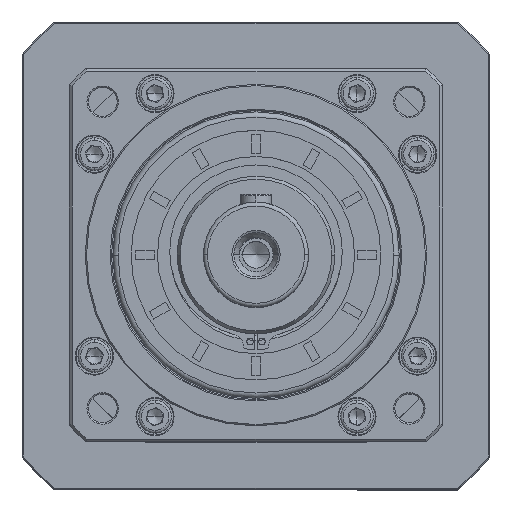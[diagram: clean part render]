
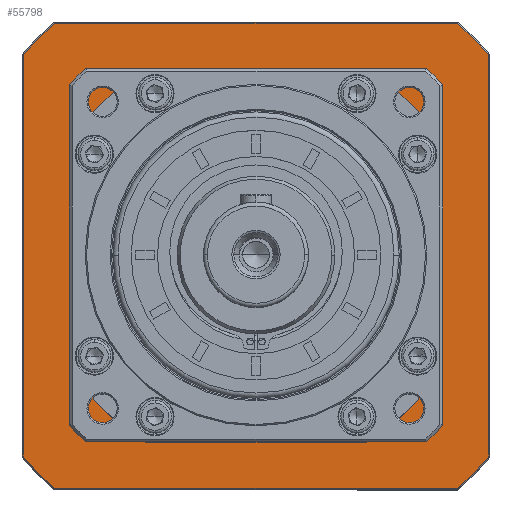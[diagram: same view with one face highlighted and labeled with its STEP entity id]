
A CAD part, top view. The second image highlights one B-rep face of the part: STEP entity #55798.
In plain terms, the highlighted planar face has unit normal (0, 0, 1).
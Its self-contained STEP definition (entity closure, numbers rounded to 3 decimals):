
#51 = AXIS2_PLACEMENT_3D ( 'NONE', #122306, #22969, #81477 ) ;
#372 = AXIS2_PLACEMENT_3D ( 'NONE', #35949, #66265, #8267 ) ;
#611 = DIRECTION ( 'NONE',  ( 0., 0., -1. ) ) ;
#6707 = CARTESIAN_POINT ( 'NONE',  ( 97.907, -83.248, 165.15 ) ) ;
#7340 = CARTESIAN_POINT ( 'NONE',  ( 115.907, -117.9, 165.15 ) ) ;
#8267 = DIRECTION ( 'NONE',  ( -1., 0., 0. ) ) ;
#8697 = CARTESIAN_POINT ( 'NONE',  ( 274.907, -159.778, 165.15 ) ) ;
#9414 = DIRECTION ( 'NONE',  ( 0., 0., -1. ) ) ;
#9546 = AXIS2_PLACEMENT_3D ( 'NONE', #118921, #59245, #11061 ) ;
#11061 = DIRECTION ( 'NONE',  ( -1., 0., 0. ) ) ;
#11111 = ORIENTED_EDGE ( 'NONE', *, *, #18601, .T. ) ;
#13739 = VERTEX_POINT ( 'NONE', #57113 ) ;
#14385 = CARTESIAN_POINT ( 'NONE',  ( 144.392, -230.278, 165.15 ) ) ;
#14524 = CARTESIAN_POINT ( 'NONE',  ( 228.285, -230.278, 165.15 ) ) ;
#16271 = LINE ( 'NONE', #8697, #110803 ) ;
#16526 = CARTESIAN_POINT ( 'NONE',  ( 97.907, -159.778, 165.15 ) ) ;
#16529 = CARTESIAN_POINT ( 'NONE',  ( 274.907, -83.248, 165.15 ) ) ;
#17891 = ORIENTED_EDGE ( 'NONE', *, *, #33307, .T. ) ;
#18601 = EDGE_CURVE ( 'NONE', #27472, #96458, #91816, .T. ) ;
#19206 = DIRECTION ( 'NONE',  ( 0., 0., 1. ) ) ;
#20451 = VECTOR ( 'NONE', #36936, 1000. ) ;
#21658 = EDGE_CURVE ( 'NONE', #112071, #13739, #113470, .T. ) ;
#22969 = DIRECTION ( 'NONE',  ( 0., 0., 1. ) ) ;
#23579 = CIRCLE ( 'NONE', #372, 117. ) ;
#24359 = ORIENTED_EDGE ( 'NONE', *, *, #120608, .T. ) ;
#25660 = CARTESIAN_POINT ( 'NONE',  ( 115.907, -201.656, 165.15 ) ) ;
#26311 = DIRECTION ( 'NONE',  ( 0., 0., -1. ) ) ;
#27073 = AXIS2_PLACEMENT_3D ( 'NONE', #106188, #9414, #37108 ) ;
#27472 = VERTEX_POINT ( 'NONE', #35143 ) ;
#27595 = EDGE_CURVE ( 'NONE', #47284, #38018, #87978, .T. ) ;
#28519 = ORIENTED_EDGE ( 'NONE', *, *, #97998, .T. ) ;
#30364 = EDGE_LOOP ( 'NONE', ( #52568, #80943, #75682, #106089, #24359, #72838, #80585, #84494 ) ) ;
#32607 = EDGE_CURVE ( 'NONE', #96458, #112071, #40900, .T. ) ;
#33307 = EDGE_CURVE ( 'NONE', #13739, #71769, #52885, .T. ) ;
#35063 = EDGE_CURVE ( 'NONE', #99577, #106062, #108547, .T. ) ;
#35143 = CARTESIAN_POINT ( 'NONE',  ( 262.937, -71.278, 165.15 ) ) ;
#35949 = CARTESIAN_POINT ( 'NONE',  ( 186.407, -159.778, 165.15 ) ) ;
#36913 = CARTESIAN_POINT ( 'NONE',  ( 109.878, -248.278, 165.15 ) ) ;
#36936 = DIRECTION ( 'NONE',  ( 0., -1., 0. ) ) ;
#36972 = DIRECTION ( 'NONE',  ( 1., 0., 0. ) ) ;
#37108 = DIRECTION ( 'NONE',  ( -1., 0., 0. ) ) ;
#37556 = CARTESIAN_POINT ( 'NONE',  ( 186.407, -159.778, 165.15 ) ) ;
#38018 = VERTEX_POINT ( 'NONE', #7340 ) ;
#38118 = CIRCLE ( 'NONE', #85000, 82. ) ;
#38983 = CARTESIAN_POINT ( 'NONE',  ( 228.422, -89.278, 165.15 ) ) ;
#39212 = CARTESIAN_POINT ( 'NONE',  ( 262.937, -248.278, 165.15 ) ) ;
#40900 = CIRCLE ( 'NONE', #125743, 117. ) ;
#42968 = CARTESIAN_POINT ( 'NONE',  ( 228.285, -89.278, 165.15 ) ) ;
#43185 = LINE ( 'NONE', #82972, #105774 ) ;
#43272 = DIRECTION ( 'NONE',  ( 0., 0., -1. ) ) ;
#44210 = EDGE_CURVE ( 'NONE', #88911, #118801, #82476, .T. ) ;
#44568 = EDGE_CURVE ( 'NONE', #118801, #99577, #85210, .T. ) ;
#45239 = DIRECTION ( 'NONE',  ( 1., 0., 0. ) ) ;
#45575 = ORIENTED_EDGE ( 'NONE', *, *, #32607, .T. ) ;
#47284 = VERTEX_POINT ( 'NONE', #25660 ) ;
#48107 = PLANE ( 'NONE',  #27073 ) ;
#48553 = DIRECTION ( 'NONE',  ( -1., 0., 0. ) ) ;
#49957 = CARTESIAN_POINT ( 'NONE',  ( 186.407, -159.778, 165.15 ) ) ;
#52568 = ORIENTED_EDGE ( 'NONE', *, *, #120475, .T. ) ;
#52696 = CARTESIAN_POINT ( 'NONE',  ( 186.407, -71.278, 165.15 ) ) ;
#52885 = CIRCLE ( 'NONE', #51, 117. ) ;
#53105 = VERTEX_POINT ( 'NONE', #14524 ) ;
#53614 = EDGE_CURVE ( 'NONE', #53105, #91508, #84362, .T. ) ;
#54903 = CARTESIAN_POINT ( 'NONE',  ( 144.53, -89.278, 165.15 ) ) ;
#55798 = ADVANCED_FACE ( 'NONE', ( #102434, #123895 ), #48107, .F. ) ;
#56905 = VECTOR ( 'NONE', #82650, 1000. ) ;
#57113 = CARTESIAN_POINT ( 'NONE',  ( 97.907, -236.307, 165.15 ) ) ;
#57632 = EDGE_CURVE ( 'NONE', #87633, #95796, #16271, .T. ) ;
#58978 = CARTESIAN_POINT ( 'NONE',  ( 109.878, -71.278, 165.15 ) ) ;
#59245 = DIRECTION ( 'NONE',  ( 0., 0., 1. ) ) ;
#60630 = CIRCLE ( 'NONE', #69500, 82. ) ;
#63023 = DIRECTION ( 'NONE',  ( -1., 0., 0. ) ) ;
#66265 = DIRECTION ( 'NONE',  ( 0., 0., 1. ) ) ;
#66615 = ORIENTED_EDGE ( 'NONE', *, *, #57632, .T. ) ;
#69500 = AXIS2_PLACEMENT_3D ( 'NONE', #120968, #43272, #91107 ) ;
#70364 = DIRECTION ( 'NONE',  ( 1., 0., 0. ) ) ;
#71769 = VERTEX_POINT ( 'NONE', #36913 ) ;
#72838 = ORIENTED_EDGE ( 'NONE', *, *, #53614, .T. ) ;
#75682 = ORIENTED_EDGE ( 'NONE', *, *, #44568, .T. ) ;
#76241 = CARTESIAN_POINT ( 'NONE',  ( 274.907, -236.307, 165.15 ) ) ;
#76845 = AXIS2_PLACEMENT_3D ( 'NONE', #96269, #26311, #36972 ) ;
#77819 = CARTESIAN_POINT ( 'NONE',  ( 115.907, -117.763, 165.15 ) ) ;
#80585 = ORIENTED_EDGE ( 'NONE', *, *, #104331, .T. ) ;
#80822 = ORIENTED_EDGE ( 'NONE', *, *, #21658, .T. ) ;
#80943 = ORIENTED_EDGE ( 'NONE', *, *, #44210, .T. ) ;
#81014 = CARTESIAN_POINT ( 'NONE',  ( 144.53, -230.278, 165.15 ) ) ;
#81477 = DIRECTION ( 'NONE',  ( -1., 0., 0. ) ) ;
#82476 = LINE ( 'NONE', #38983, #88560 ) ;
#82650 = DIRECTION ( 'NONE',  ( -1., 0., 0. ) ) ;
#82670 = CARTESIAN_POINT ( 'NONE',  ( 256.907, -201.793, 165.15 ) ) ;
#82690 = VECTOR ( 'NONE', #90775, 1000. ) ;
#82972 = CARTESIAN_POINT ( 'NONE',  ( 186.407, -248.278, 165.15 ) ) ;
#83679 = CARTESIAN_POINT ( 'NONE',  ( 256.907, -201.656, 165.15 ) ) ;
#84362 = LINE ( 'NONE', #14385, #56905 ) ;
#84494 = ORIENTED_EDGE ( 'NONE', *, *, #27595, .T. ) ;
#84645 = ORIENTED_EDGE ( 'NONE', *, *, #87989, .T. ) ;
#85000 = AXIS2_PLACEMENT_3D ( 'NONE', #49957, #611, #107968 ) ;
#85210 = CIRCLE ( 'NONE', #112632, 82. ) ;
#87633 = VERTEX_POINT ( 'NONE', #76241 ) ;
#87978 = LINE ( 'NONE', #77819, #120038 ) ;
#87989 = EDGE_CURVE ( 'NONE', #95796, #27472, #23579, .T. ) ;
#88560 = VECTOR ( 'NONE', #107234, 1000. ) ;
#88608 = CIRCLE ( 'NONE', #9546, 117. ) ;
#88911 = VERTEX_POINT ( 'NONE', #54903 ) ;
#90775 = DIRECTION ( 'NONE',  ( 0., -1., 0. ) ) ;
#91107 = DIRECTION ( 'NONE',  ( 1., 0., 0. ) ) ;
#91508 = VERTEX_POINT ( 'NONE', #81014 ) ;
#91816 = LINE ( 'NONE', #52696, #97926 ) ;
#94252 = VERTEX_POINT ( 'NONE', #39212 ) ;
#95485 = EDGE_CURVE ( 'NONE', #94252, #87633, #88608, .T. ) ;
#95796 = VERTEX_POINT ( 'NONE', #16529 ) ;
#96269 = CARTESIAN_POINT ( 'NONE',  ( 186.407, -159.778, 165.15 ) ) ;
#96458 = VERTEX_POINT ( 'NONE', #58978 ) ;
#97926 = VECTOR ( 'NONE', #63023, 1000. ) ;
#97998 = EDGE_CURVE ( 'NONE', #71769, #94252, #43185, .T. ) ;
#99577 = VERTEX_POINT ( 'NONE', #120018 ) ;
#101277 = ORIENTED_EDGE ( 'NONE', *, *, #95485, .T. ) ;
#102431 = CARTESIAN_POINT ( 'NONE',  ( 186.407, -159.778, 165.15 ) ) ;
#102434 = FACE_OUTER_BOUND ( 'NONE', #123407, .T. ) ;
#104331 = EDGE_CURVE ( 'NONE', #91508, #47284, #38118, .T. ) ;
#104907 = CIRCLE ( 'NONE', #76845, 82. ) ;
#105774 = VECTOR ( 'NONE', #70364, 1000. ) ;
#105910 = DIRECTION ( 'NONE',  ( 0., 1., 0. ) ) ;
#106062 = VERTEX_POINT ( 'NONE', #83679 ) ;
#106089 = ORIENTED_EDGE ( 'NONE', *, *, #35063, .T. ) ;
#106188 = CARTESIAN_POINT ( 'NONE',  ( 186.407, -159.778, 165.15 ) ) ;
#107234 = DIRECTION ( 'NONE',  ( 1., 0., 0. ) ) ;
#107968 = DIRECTION ( 'NONE',  ( 1., 0., 0. ) ) ;
#108547 = LINE ( 'NONE', #82670, #82690 ) ;
#110803 = VECTOR ( 'NONE', #114886, 1000. ) ;
#112071 = VERTEX_POINT ( 'NONE', #6707 ) ;
#112632 = AXIS2_PLACEMENT_3D ( 'NONE', #102431, #121696, #45239 ) ;
#113470 = LINE ( 'NONE', #16526, #20451 ) ;
#114886 = DIRECTION ( 'NONE',  ( 0., 1., 0. ) ) ;
#118801 = VERTEX_POINT ( 'NONE', #42968 ) ;
#118921 = CARTESIAN_POINT ( 'NONE',  ( 186.407, -159.778, 165.15 ) ) ;
#120018 = CARTESIAN_POINT ( 'NONE',  ( 256.907, -117.9, 165.15 ) ) ;
#120038 = VECTOR ( 'NONE', #105910, 1000. ) ;
#120475 = EDGE_CURVE ( 'NONE', #38018, #88911, #104907, .T. ) ;
#120608 = EDGE_CURVE ( 'NONE', #106062, #53105, #60630, .T. ) ;
#120968 = CARTESIAN_POINT ( 'NONE',  ( 186.407, -159.778, 165.15 ) ) ;
#121696 = DIRECTION ( 'NONE',  ( 0., 0., -1. ) ) ;
#122306 = CARTESIAN_POINT ( 'NONE',  ( 186.407, -159.778, 165.15 ) ) ;
#123407 = EDGE_LOOP ( 'NONE', ( #80822, #17891, #28519, #101277, #66615, #84645, #11111, #45575 ) ) ;
#123895 = FACE_BOUND ( 'NONE', #30364, .T. ) ;
#125743 = AXIS2_PLACEMENT_3D ( 'NONE', #37556, #19206, #48553 ) ;
